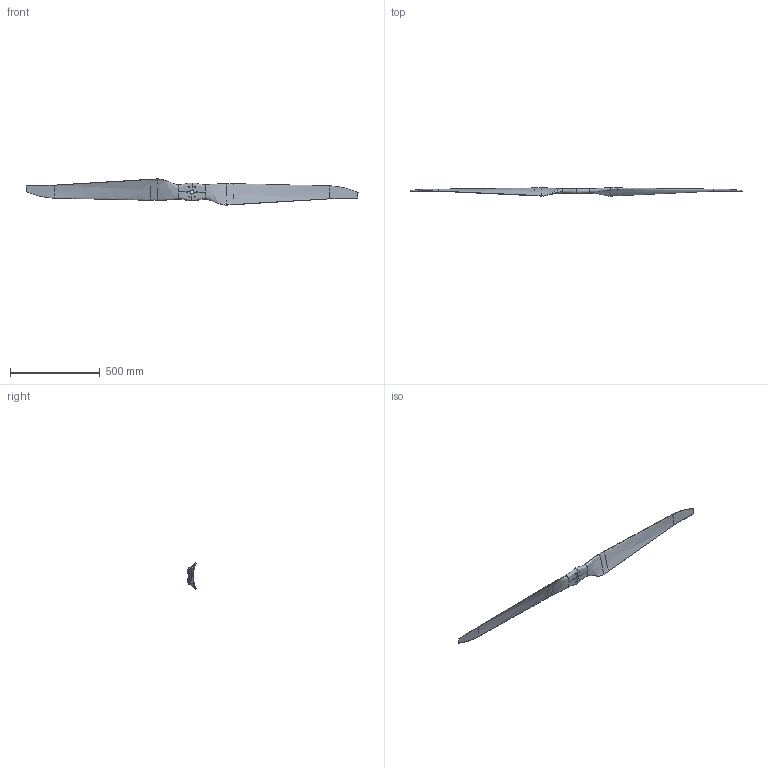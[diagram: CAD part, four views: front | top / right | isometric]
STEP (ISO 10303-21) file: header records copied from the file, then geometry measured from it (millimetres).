
FILE_DESCRIPTION (( 'STEP AP214' ), '1' );
FILE_NAME ('7321-P（光桨叶，对外模型）.STEP', '2026-02-07T07:51:49', ( '' ), ( '' ), 'SwSTEP 2.0', 'SolidWorks 2021', '' );
FILE_SCHEMA (( 'AUTOMOTIVE_DESIGN' ));
Length unit declared in the file: millimetre
Products named in the file (1): 7321-P（光桨叶，对外模型）
Bounding box: 1854.2 x 46.54 x 146.82 mm (x, y, z)
Volume: 1756364.4 mm3; surface area: 363751.3 mm2
Topology: 1 solids, 1 shells, 31 faces, 87 edges, 52 vertices
Faces by surface type: bspline 22, cylinder 7, plane 2
Full cylindrical faces by diameter (mm): 6.3 x6, 20 x1
Entity records: 51761 total; most frequent: CARTESIAN_POINT 51137, ORIENTED_EDGE 160, EDGE_CURVE 80, B_SPLINE_CURVE_WITH_KNOTS 64, VERTEX_POINT 52, EDGE_LOOP 46, FACE_OUTER_BOUND 38, DIRECTION 36
